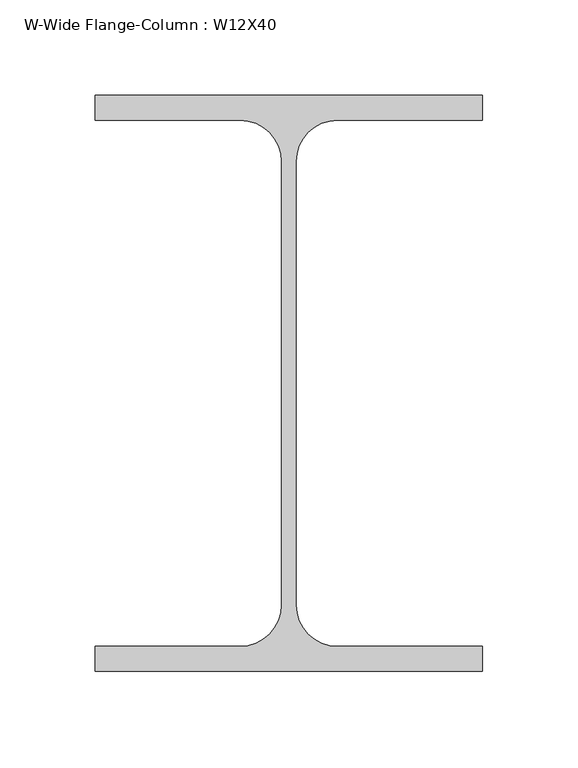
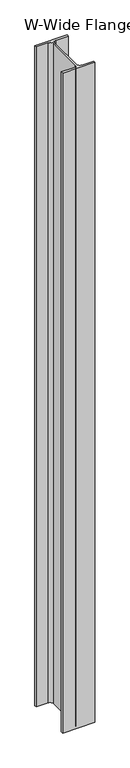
"""IFC4 building model written with IfcOpenShell, lengths in millimetres: column geometry, W-Wide Flange-Column : W12X40."""

from ifc_helpers import new_model, si_unit, point, frame, frame_2d, origin, place, context, project, spatial, polyline, circle_curve, trimmed, segment, composite_curve, outline, extrude, source, transform, mapped, element, save


def w_wide_flange_column_w12x40_bfb7e602(model_context):
    return source(origin(), model_context, "Body", "SweptSolid", [
        extrude(outline(composite_curve([segment(polyline([(101.727, 151.13), (101.727, 138.049), (25.5905, 138.049)]), True, "CONTINUOUS"), segment(trimmed(circle_curve(frame_2d((25.5905, 116.205)), 21.844), [point((25.5905, 138.049))], [point((3.7465, 116.205))], True, "CARTESIAN"), True, "CONTINUOUS"), segment(polyline([(3.7465, 116.205), (3.7465, -116.205)]), True, "CONTINUOUS"), segment(trimmed(circle_curve(frame_2d((25.5905, -116.205)), 21.844), [point((3.7465, -116.205))], [point((25.5905, -138.049))], True, "CARTESIAN"), True, "CONTINUOUS"), segment(polyline([(25.5905, -138.049), (101.727, -138.049), (101.727, -151.13), (-101.727, -151.13), (-101.727, -138.049), (-25.5905, -138.049)]), True, "CONTINUOUS"), segment(trimmed(circle_curve(frame_2d((-25.5905, -116.205)), 21.844), [point((-25.5905, -138.049))], [point((-3.7465, -116.205))], True, "CARTESIAN"), True, "CONTINUOUS"), segment(polyline([(-3.7465, -116.205), (-3.7465, 116.205)]), True, "CONTINUOUS"), segment(trimmed(circle_curve(frame_2d((-25.5905, 116.205)), 21.844), [point((-3.7465, 116.205))], [point((-25.5905, 138.049))], True, "CARTESIAN"), True, "CONTINUOUS"), segment(polyline([(-25.5905, 138.049), (-101.727, 138.049), (-101.727, 151.13), (101.727, 151.13)]), True, "CONTINUOUS")], self_intersect=False)), frame((0.0, 0.0, 9017.0), z_axis=(0.0, 0.0, 1.0), x_axis=(1.0, 0.0, 0.0)), (0.0, 0.0, 1.0), 4394.2),
    ])


if __name__ == "__main__":
    model = new_model("IFC4")
    model_context = context("Model", 3, world=origin())
    ifc_project = project(units=[si_unit("LENGTHUNIT", "METRE", prefix="MILLI")], contexts=[model_context])
    site = spatial("IfcSite", under=ifc_project)
    building = spatial("IfcBuilding", under=site)
    placement = place(None, origin())
    w_wide_flange_column_w12x40_shape = w_wide_flange_column_w12x40_bfb7e602(model_context)
    element("IfcColumn", 1, ObjectType="W-Wide Flange-Column : W12X40", at=placement, inside=building, context=model_context, shape_type="MappedRepresentation", body=[
        mapped(w_wide_flange_column_w12x40_shape, transform((0.0, 0.0, 0.0), x_axis=(1.0, 0.0, 0.0), y_axis=(0.0, 1.0, 0.0), z_axis=(0.0, 0.0, 1.0))),
    ])
    save(model, "model.ifc")
